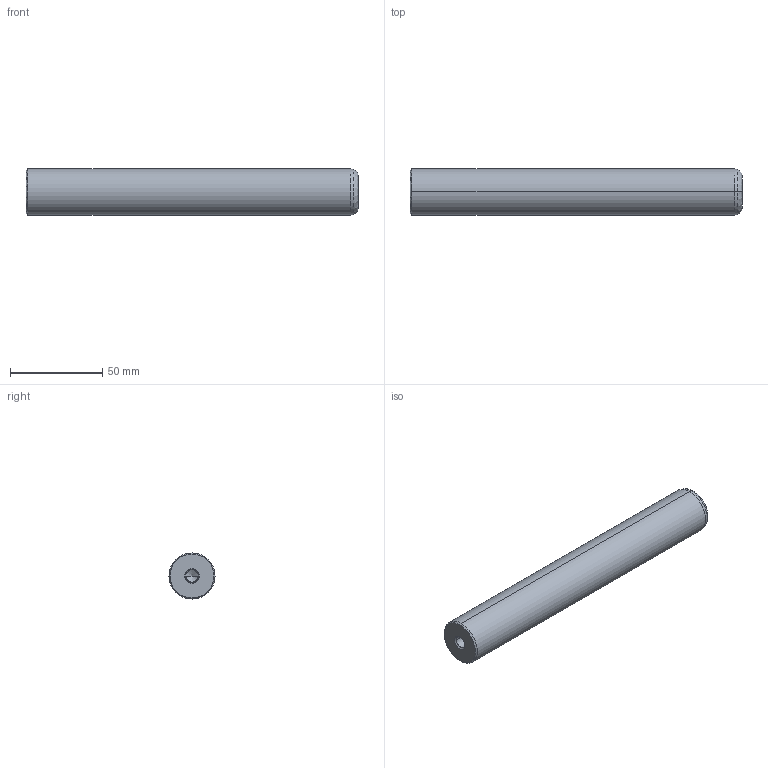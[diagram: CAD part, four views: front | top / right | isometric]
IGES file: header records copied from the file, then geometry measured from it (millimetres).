
Start section: START RECORD GO HERE.
Global section: file name: 720-25x180.igs; native system: DASSAULT SYSTEMES CATIA V5 R20 - www.3ds.com; preprocessor: CATIA Version 5 Release 20 ; author: Utente; organization: NB04-ASUS; date: 20210101.134237; units: millimetre
Bounding box: 180 x 25 x 25 mm (x, y, z)
Surface area: 15947.8 mm2 (no closed solid volume)
Topology: 0 solids, 0 shells, 22 faces, 108 edges, 104 vertices
Faces by surface type: revolution 20, plane 2
